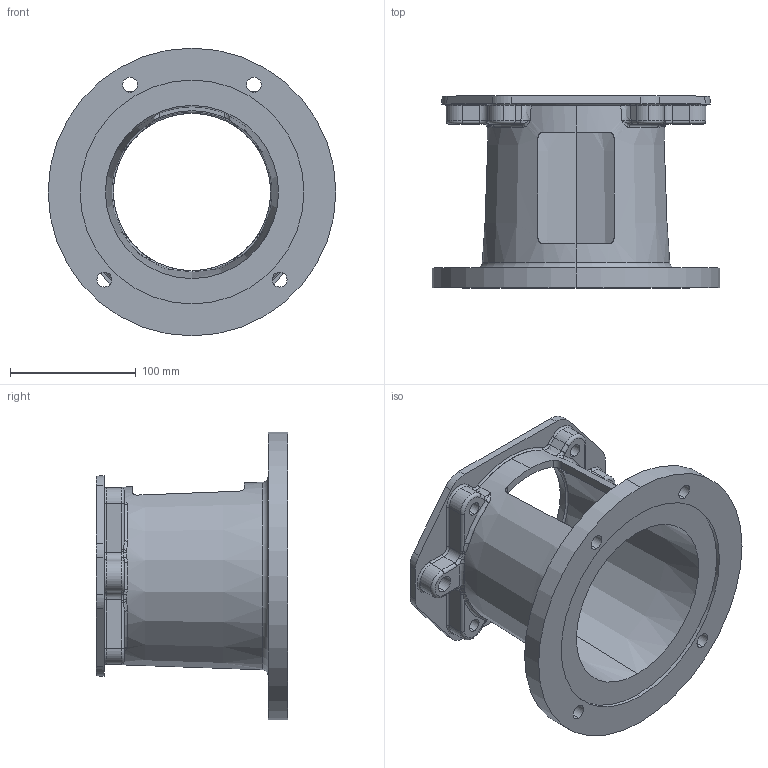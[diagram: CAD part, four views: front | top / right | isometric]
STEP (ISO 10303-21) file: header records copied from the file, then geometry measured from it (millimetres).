
FILE_DESCRIPTION (( 'STEP AP203' ), '1' );
FILE_NAME ('E70060125M.STEP', '2014-11-04T13:18:17', ( '' ), ( '' ), 'SwSTEP 2.0', 'SolidWorks 2014', '' );
FILE_SCHEMA (( 'CONFIG_CONTROL_DESIGN' ));
Length unit declared in the file: inch
Products named in the file (1): E70060125M
Bounding box: 228.6 x 152.4 x 228.6 mm (x, y, z)
Volume: 867288.6 mm3; surface area: 214770.5 mm2
Topology: 1 solids, 1 shells, 266 faces, 687 edges, 412 vertices
Faces by surface type: cylinder 74, bspline 64, torus 61, plane 39, sphere 16, cone 12
Entity records: 10709 total; most frequent: CARTESIAN_POINT 4552, ORIENTED_EDGE 1350, DIRECTION 1238, EDGE_CURVE 675, AXIS2_PLACEMENT_3D 548, VERTEX_POINT 412, CIRCLE 345, EDGE_LOOP 291
